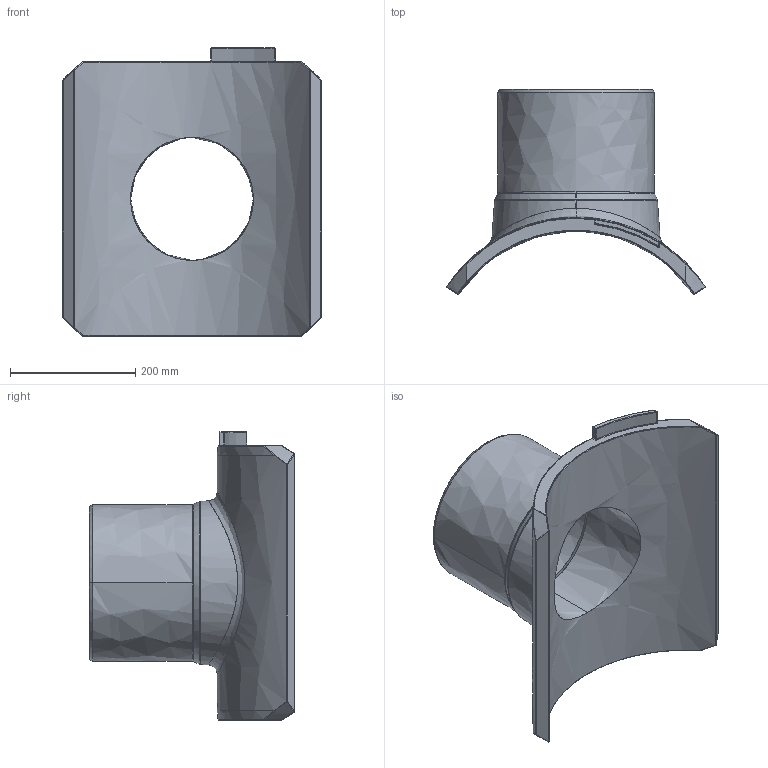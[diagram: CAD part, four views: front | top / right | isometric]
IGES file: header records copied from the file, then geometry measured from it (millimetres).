
Start section:  PTC IGES file: sa-uni_d450_250_01.igs
Global section: file name: sa-uni_d450_250_01.igs; native system: Creo Parametric by PTC Inc.; preprocessor: 2022124; author: mikulicp; organization: Unknown; date: 20240701.111327; units: millimetre
Bounding box: 412.52 x 327.37 x 460 mm (x, y, z)
Surface area: 699788.4 mm2 (no closed solid volume)
Topology: 0 solids, 0 shells, 241 faces, 1166 edges, 1166 vertices
Faces by surface type: bspline 241
